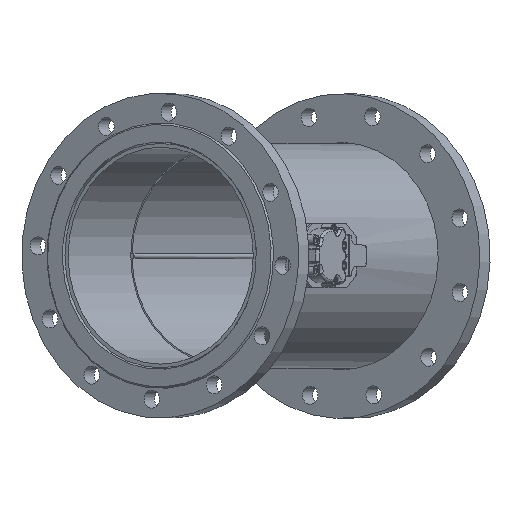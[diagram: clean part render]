
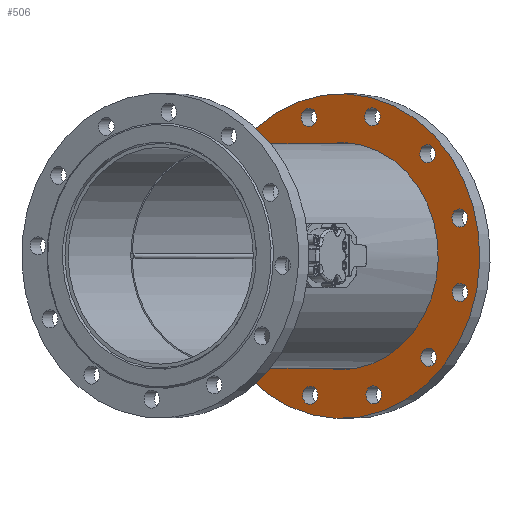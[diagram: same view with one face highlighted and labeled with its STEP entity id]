
A CAD part, top view. The second image highlights one B-rep face of the part: STEP entity #506.
In plain terms, the highlighted planar face has unit normal (-0.522, 0, 0.853) as drawn and (0, 0, -1) by its records, which use the part's own axes.
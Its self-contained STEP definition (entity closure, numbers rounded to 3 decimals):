
#506 = ADVANCED_FACE( '', ( #1152, #1153, #1154, #1155, #1156, #1157, #1158, #1159, #1160, #1161, #1162, #1163, #1164, #1165 ), #1166, .T. );
#1152 = FACE_BOUND( '', #2088, .T. );
#1153 = FACE_BOUND( '', #2089, .T. );
#1154 = FACE_BOUND( '', #2090, .T. );
#1155 = FACE_BOUND( '', #2091, .T. );
#1156 = FACE_BOUND( '', #2092, .T. );
#1157 = FACE_BOUND( '', #2093, .T. );
#1158 = FACE_BOUND( '', #2094, .T. );
#1159 = FACE_BOUND( '', #2095, .T. );
#1160 = FACE_BOUND( '', #2096, .T. );
#1161 = FACE_BOUND( '', #2097, .T. );
#1162 = FACE_BOUND( '', #2098, .T. );
#1163 = FACE_BOUND( '', #2099, .T. );
#1164 = FACE_BOUND( '', #2100, .T. );
#1165 = FACE_OUTER_BOUND( '', #2101, .T. );
#1166 = PLANE( '', #2102 );
#2088 = EDGE_LOOP( '', ( #6181 ) );
#2089 = EDGE_LOOP( '', ( #6182 ) );
#2090 = EDGE_LOOP( '', ( #6183 ) );
#2091 = EDGE_LOOP( '', ( #6184 ) );
#2092 = EDGE_LOOP( '', ( #6185 ) );
#2093 = EDGE_LOOP( '', ( #6186 ) );
#2094 = EDGE_LOOP( '', ( #6187 ) );
#2095 = EDGE_LOOP( '', ( #6188 ) );
#2096 = EDGE_LOOP( '', ( #6189 ) );
#2097 = EDGE_LOOP( '', ( #6190 ) );
#2098 = EDGE_LOOP( '', ( #6191 ) );
#2099 = EDGE_LOOP( '', ( #6192 ) );
#2100 = EDGE_LOOP( '', ( #6193 ) );
#2101 = EDGE_LOOP( '', ( #6194 ) );
#2102 = AXIS2_PLACEMENT_3D( '', #6195, #6196, #6197 );
#6181 = ORIENTED_EDGE( '', *, *, #8210, .F. );
#6182 = ORIENTED_EDGE( '', *, *, #8211, .F. );
#6183 = ORIENTED_EDGE( '', *, *, #8212, .F. );
#6184 = ORIENTED_EDGE( '', *, *, #8213, .F. );
#6185 = ORIENTED_EDGE( '', *, *, #8176, .F. );
#6186 = ORIENTED_EDGE( '', *, *, #8182, .F. );
#6187 = ORIENTED_EDGE( '', *, *, #8214, .F. );
#6188 = ORIENTED_EDGE( '', *, *, #8215, .F. );
#6189 = ORIENTED_EDGE( '', *, *, #8216, .F. );
#6190 = ORIENTED_EDGE( '', *, *, #8217, .F. );
#6191 = ORIENTED_EDGE( '', *, *, #8218, .F. );
#6192 = ORIENTED_EDGE( '', *, *, #8219, .F. );
#6193 = ORIENTED_EDGE( '', *, *, #8220, .T. );
#6194 = ORIENTED_EDGE( '', *, *, #8221, .F. );
#6195 = CARTESIAN_POINT( '', ( 138.25, 0., 0. ) );
#6196 = DIRECTION( '', ( 0., 0., -1. ) );
#6197 = DIRECTION( '', ( -1., 0., 0. ) );
#8176 = EDGE_CURVE( '', #9079, #9079, #9080, .T. );
#8182 = EDGE_CURVE( '', #9087, #9087, #9088, .T. );
#8210 = EDGE_CURVE( '', #9133, #9133, #9134, .T. );
#8211 = EDGE_CURVE( '', #9135, #9135, #9136, .T. );
#8212 = EDGE_CURVE( '', #9137, #9137, #9138, .T. );
#8213 = EDGE_CURVE( '', #9139, #9139, #9140, .T. );
#8214 = EDGE_CURVE( '', #9141, #9141, #9142, .T. );
#8215 = EDGE_CURVE( '', #9143, #9143, #9144, .T. );
#8216 = EDGE_CURVE( '', #9145, #9145, #9146, .T. );
#8217 = EDGE_CURVE( '', #9147, #9147, #9148, .T. );
#8218 = EDGE_CURVE( '', #9149, #9149, #9150, .T. );
#8219 = EDGE_CURVE( '', #9151, #9151, #9152, .T. );
#8220 = EDGE_CURVE( '', #9153, #9153, #9154, .T. );
#8221 = EDGE_CURVE( '', #9155, #9155, #9156, .T. );
#9079 = VERTEX_POINT( '', #10360 );
#9080 = CIRCLE( '', #10361, 11. );
#9087 = VERTEX_POINT( '', #10370 );
#9088 = CIRCLE( '', #10371, 11. );
#9133 = VERTEX_POINT( '', #10451 );
#9134 = CIRCLE( '', #10452, 11. );
#9135 = VERTEX_POINT( '', #10453 );
#9136 = CIRCLE( '', #10454, 11. );
#9137 = VERTEX_POINT( '', #10455 );
#9138 = CIRCLE( '', #10456, 11. );
#9139 = VERTEX_POINT( '', #10457 );
#9140 = CIRCLE( '', #10458, 11. );
#9141 = VERTEX_POINT( '', #10459 );
#9142 = CIRCLE( '', #10460, 11. );
#9143 = VERTEX_POINT( '', #10461 );
#9144 = CIRCLE( '', #10462, 11. );
#9145 = VERTEX_POINT( '', #10463 );
#9146 = CIRCLE( '', #10464, 11. );
#9147 = VERTEX_POINT( '', #10465 );
#9148 = CIRCLE( '', #10466, 11. );
#9149 = VERTEX_POINT( '', #10467 );
#9150 = CIRCLE( '', #10468, 11. );
#9151 = VERTEX_POINT( '', #10469 );
#9152 = CIRCLE( '', #10470, 11. );
#9153 = VERTEX_POINT( '', #10471 );
#9154 = CIRCLE( '', #10472, 138.25 );
#9155 = VERTEX_POINT( '', #10473 );
#9156 = CIRCLE( '', #10474, 197.5 );
#10360 = CARTESIAN_POINT( '', ( -33.842, -173.503, 0. ) );
#10361 = AXIS2_PLACEMENT_3D( '', #12978, #12979, #12980 );
#10370 = CARTESIAN_POINT( '', ( 55.97, -161.679, 0. ) );
#10371 = AXIS2_PLACEMENT_3D( '', #12986, #12987, #12988 );
#10451 = CARTESIAN_POINT( '', ( -149.837, 106.533, 0. ) );
#10452 = AXIS2_PLACEMENT_3D( '', #13027, #13028, #13029 );
#10453 = CARTESIAN_POINT( '', ( -184.503, 22.842, 0. ) );
#10454 = AXIS2_PLACEMENT_3D( '', #13030, #13031, #13032 );
#10455 = CARTESIAN_POINT( '', ( -172.679, -66.97, 0. ) );
#10456 = AXIS2_PLACEMENT_3D( '', #13033, #13034, #13035 );
#10457 = CARTESIAN_POINT( '', ( -117.533, -138.837, 0. ) );
#10458 = AXIS2_PLACEMENT_3D( '', #13036, #13037, #13038 );
#10459 = CARTESIAN_POINT( '', ( 127.837, -106.533, 0. ) );
#10460 = AXIS2_PLACEMENT_3D( '', #13039, #13040, #13041 );
#10461 = CARTESIAN_POINT( '', ( 162.503, -22.842, 0. ) );
#10462 = AXIS2_PLACEMENT_3D( '', #13042, #13043, #13044 );
#10463 = CARTESIAN_POINT( '', ( 150.679, 66.97, 0. ) );
#10464 = AXIS2_PLACEMENT_3D( '', #13045, #13046, #13047 );
#10465 = CARTESIAN_POINT( '', ( 95.533, 138.837, 0. ) );
#10466 = AXIS2_PLACEMENT_3D( '', #13048, #13049, #13050 );
#10467 = CARTESIAN_POINT( '', ( 11.842, 173.503, 0. ) );
#10468 = AXIS2_PLACEMENT_3D( '', #13051, #13052, #13053 );
#10469 = CARTESIAN_POINT( '', ( -77.97, 161.679, 0. ) );
#10470 = AXIS2_PLACEMENT_3D( '', #13054, #13055, #13056 );
#10471 = CARTESIAN_POINT( '', ( 138.25, 0., 0. ) );
#10472 = AXIS2_PLACEMENT_3D( '', #13057, #13058, #13059 );
#10473 = CARTESIAN_POINT( '', ( 197.5, 0., 0. ) );
#10474 = AXIS2_PLACEMENT_3D( '', #13060, #13061, #13062 );
#12978 = CARTESIAN_POINT( '', ( -22.842, -173.503, 0. ) );
#12979 = DIRECTION( '', ( 0., 0., -1. ) );
#12980 = DIRECTION( '', ( -1., 0., 0. ) );
#12986 = CARTESIAN_POINT( '', ( 66.97, -161.679, 0. ) );
#12987 = DIRECTION( '', ( 0., 0., -1. ) );
#12988 = DIRECTION( '', ( -1., 0., 0. ) );
#13027 = CARTESIAN_POINT( '', ( -138.837, 106.533, 0. ) );
#13028 = DIRECTION( '', ( 0., 0., -1. ) );
#13029 = DIRECTION( '', ( -1., 0., 0. ) );
#13030 = CARTESIAN_POINT( '', ( -173.503, 22.842, 0. ) );
#13031 = DIRECTION( '', ( 0., 0., -1. ) );
#13032 = DIRECTION( '', ( -1., 0., 0. ) );
#13033 = CARTESIAN_POINT( '', ( -161.679, -66.97, 0. ) );
#13034 = DIRECTION( '', ( 0., 0., -1. ) );
#13035 = DIRECTION( '', ( -1., 0., 0. ) );
#13036 = CARTESIAN_POINT( '', ( -106.533, -138.837, 0. ) );
#13037 = DIRECTION( '', ( 0., 0., -1. ) );
#13038 = DIRECTION( '', ( -1., 0., 0. ) );
#13039 = CARTESIAN_POINT( '', ( 138.837, -106.533, 0. ) );
#13040 = DIRECTION( '', ( 0., 0., -1. ) );
#13041 = DIRECTION( '', ( -1., 0., 0. ) );
#13042 = CARTESIAN_POINT( '', ( 173.503, -22.842, 0. ) );
#13043 = DIRECTION( '', ( 0., 0., -1. ) );
#13044 = DIRECTION( '', ( -1., 0., 0. ) );
#13045 = CARTESIAN_POINT( '', ( 161.679, 66.97, 0. ) );
#13046 = DIRECTION( '', ( 0., 0., -1. ) );
#13047 = DIRECTION( '', ( -1., 0., 0. ) );
#13048 = CARTESIAN_POINT( '', ( 106.533, 138.837, 0. ) );
#13049 = DIRECTION( '', ( 0., 0., -1. ) );
#13050 = DIRECTION( '', ( -1., 0., 0. ) );
#13051 = CARTESIAN_POINT( '', ( 22.842, 173.503, 0. ) );
#13052 = DIRECTION( '', ( 0., 0., -1. ) );
#13053 = DIRECTION( '', ( -1., 0., 0. ) );
#13054 = CARTESIAN_POINT( '', ( -66.97, 161.679, 0. ) );
#13055 = DIRECTION( '', ( 0., 0., -1. ) );
#13056 = DIRECTION( '', ( -1., 0., 0. ) );
#13057 = CARTESIAN_POINT( '', ( 0., 0., 0. ) );
#13058 = DIRECTION( '', ( 0., 0., 1. ) );
#13059 = DIRECTION( '', ( 1., 0., 0. ) );
#13060 = CARTESIAN_POINT( '', ( 0., 0., 0. ) );
#13061 = DIRECTION( '', ( 0., 0., 1. ) );
#13062 = DIRECTION( '', ( 1., 0., 0. ) );
